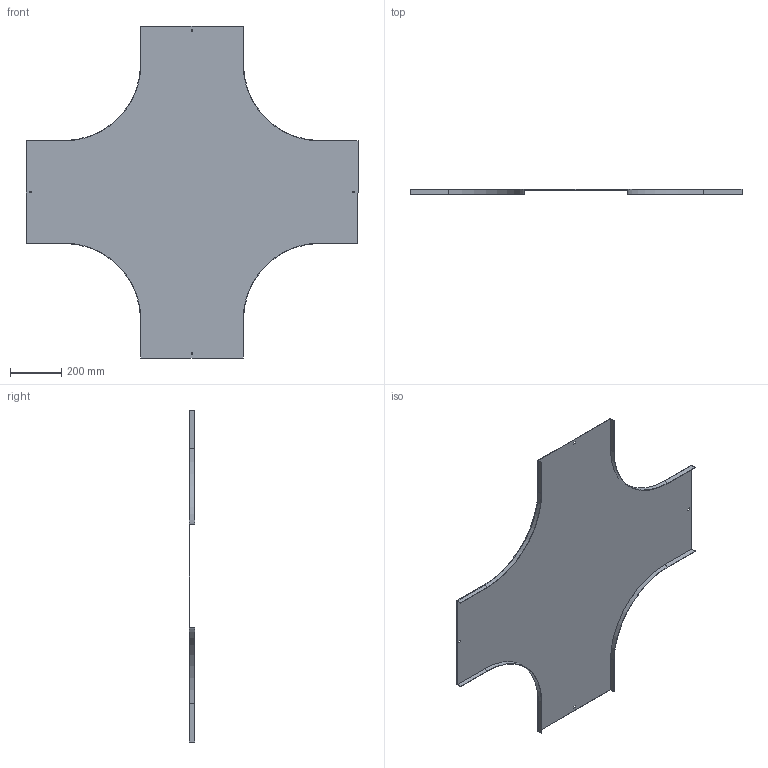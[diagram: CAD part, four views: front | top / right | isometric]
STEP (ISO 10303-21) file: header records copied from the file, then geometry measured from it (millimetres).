
FILE_DESCRIPTION (( 'STEP AP214' ), '1' );
FILE_NAME ('A2_17N3R400.step', '2025-02-21T12:08:13', ( '' ), ( '' ), 'SwSTEP 2.0', 'SolidWorks 2023', '' );
FILE_SCHEMA (( 'AUTOMOTIVE_DESIGN' ));
Length unit declared in the file: millimetre
Products named in the file (1): A2_17N3R400
Bounding box: 1300 x 20 x 1300 mm (x, y, z)
Volume: 1527941.3 mm3; surface area: 2044694.3 mm2
Topology: 1 solids, 1 shells, 50 faces, 144 edges, 96 vertices
Faces by surface type: plane 42, cylinder 8
Entity records: 1663 total; most frequent: CARTESIAN_POINT 291, ORIENTED_EDGE 288, DIRECTION 262, EDGE_CURVE 144, VECTOR 128, LINE 128, VERTEX_POINT 96, AXIS2_PLACEMENT_3D 67
